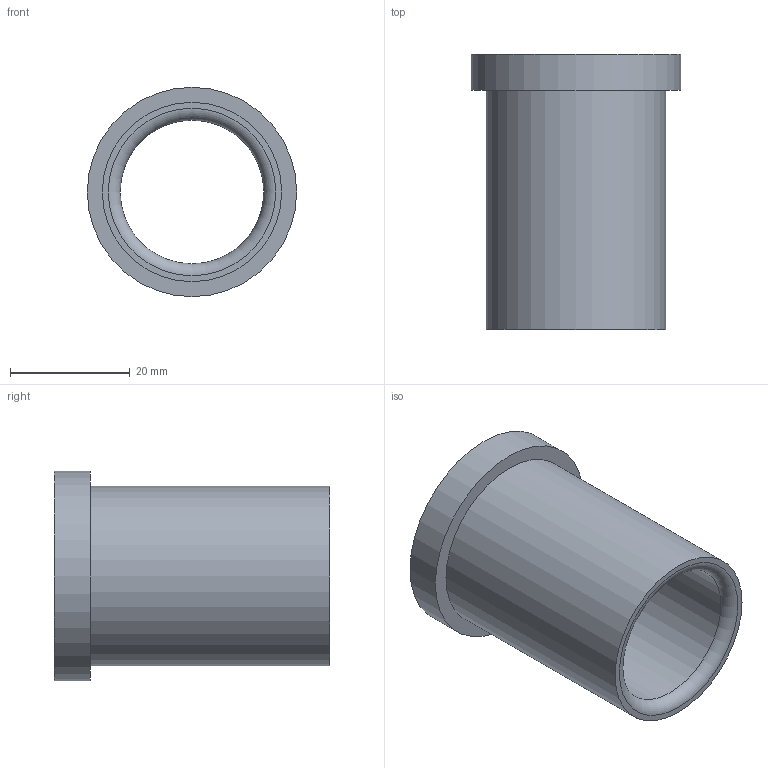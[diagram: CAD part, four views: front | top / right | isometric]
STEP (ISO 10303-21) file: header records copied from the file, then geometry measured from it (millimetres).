
FILE_DESCRIPTION(/* description */ ('STEP AP214'),/* implementation_level */ '2;1');
FILE_NAME(/* name */ '03_12_17936',/* time_stamp */ '2023-06-15T11:35:36+02:00',/* author */ ('License CC BY-ND 4.0'),/* organization */ ('CADENAS'),/* preprocessor_version */ 'ST-DEVELOPER v19.3',/* originating_system */ 'PARTsolutions',/* authorisation */ ' ');
FILE_SCHEMA (('AUTOMOTIVE_DESIGN {1 0 10303 214 3 1 1}'));
Length unit declared in the file: millimetre
Products named in the file (1): VA_Bushing_17936
Bounding box: 35 x 46 x 35 mm (x, y, z)
Volume: 12890.5 mm3; surface area: 8807.2 mm2
Topology: 1 solids, 1 shells, 10 faces, 16 edges, 10 vertices
Faces by surface type: cylinder 4, plane 4, torus 2
Full cylindrical faces by diameter (mm): 24 x1, 24.6 x1, 30 x1, 35 x1
Entity records: 302 total; most frequent: DIRECTION 42, CARTESIAN_POINT 31, AXIS2_PLACEMENT_3D 21, ORIENTED_EDGE 20, EDGE_LOOP 20, FACE_BOUND 20, EDGE_CURVE 10, VERTEX_POINT 10
